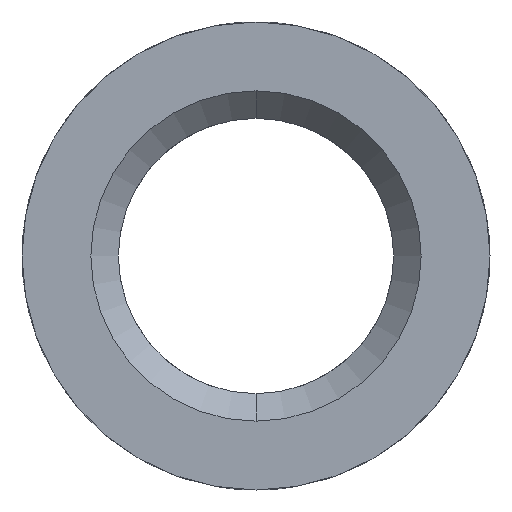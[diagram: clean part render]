
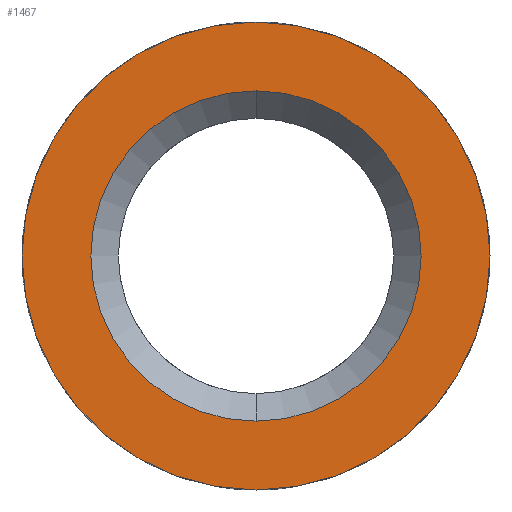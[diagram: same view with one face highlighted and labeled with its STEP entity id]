
A CAD part, left-side view. The second image highlights one B-rep face of the part: STEP entity #1467.
In plain terms, the highlighted planar face has unit normal (-1, 0, 0).
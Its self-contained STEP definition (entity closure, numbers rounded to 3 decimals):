
#71 = DIRECTION ( 'NONE',  ( 0., 0., 1. ) ) ;
#90 = EDGE_CURVE ( 'NONE', #1417, #294, #1748, .T. ) ;
#257 = CARTESIAN_POINT ( 'NONE',  ( -12.7, 0., 0. ) ) ;
#263 = AXIS2_PLACEMENT_3D ( 'NONE', #2229, #596, #2007 ) ;
#294 = VERTEX_POINT ( 'NONE', #2160 ) ;
#395 = CIRCLE ( 'NONE', #2587, 4.25 ) ;
#596 = DIRECTION ( 'NONE',  ( 1., 0., 0. ) ) ;
#636 = AXIS2_PLACEMENT_3D ( 'NONE', #257, #1765, #1462 ) ;
#832 = AXIS2_PLACEMENT_3D ( 'NONE', #947, #1535, #2147 ) ;
#947 = CARTESIAN_POINT ( 'NONE',  ( -12.7, 0., 0. ) ) ;
#1019 = FACE_BOUND ( 'NONE', #2196, .T. ) ;
#1034 = ORIENTED_EDGE ( 'NONE', *, *, #1393, .F. ) ;
#1114 = DIRECTION ( 'NONE',  ( 1., 0., 0. ) ) ;
#1260 = CARTESIAN_POINT ( 'NONE',  ( -12.7, 2.5, 0. ) ) ;
#1352 = CARTESIAN_POINT ( 'NONE',  ( -12.7, 0., 0. ) ) ;
#1393 = EDGE_CURVE ( 'NONE', #2288, #2182, #2625, .T. ) ;
#1401 = ORIENTED_EDGE ( 'NONE', *, *, #1644, .F. ) ;
#1417 = VERTEX_POINT ( 'NONE', #2194 ) ;
#1462 = DIRECTION ( 'NONE',  ( 0., 0., 1. ) ) ;
#1467 = ADVANCED_FACE ( 'NONE', ( #1019, #1872 ), #1858, .T. ) ;
#1497 = CIRCLE ( 'NONE', #636, 3. ) ;
#1508 = AXIS2_PLACEMENT_3D ( 'NONE', #1260, #2289, #71 ) ;
#1535 = DIRECTION ( 'NONE',  ( 1., 0., 0. ) ) ;
#1588 = ORIENTED_EDGE ( 'NONE', *, *, #2277, .T. ) ;
#1644 = EDGE_CURVE ( 'NONE', #2182, #2288, #395, .T. ) ;
#1748 = CIRCLE ( 'NONE', #832, 3. ) ;
#1765 = DIRECTION ( 'NONE',  ( 1., 0., 0. ) ) ;
#1858 = PLANE ( 'NONE',  #1508 ) ;
#1872 = FACE_OUTER_BOUND ( 'NONE', #2377, .T. ) ;
#1945 = DIRECTION ( 'NONE',  ( 0., 0., -1. ) ) ;
#2007 = DIRECTION ( 'NONE',  ( 0., 0., -1. ) ) ;
#2105 = CARTESIAN_POINT ( 'NONE',  ( -12.7, 0., 4.25 ) ) ;
#2147 = DIRECTION ( 'NONE',  ( 0., 0., 1. ) ) ;
#2160 = CARTESIAN_POINT ( 'NONE',  ( -12.7, 0., 3. ) ) ;
#2182 = VERTEX_POINT ( 'NONE', #2235 ) ;
#2194 = CARTESIAN_POINT ( 'NONE',  ( -12.7, 0., -3. ) ) ;
#2196 = EDGE_LOOP ( 'NONE', ( #1588, #2266 ) ) ;
#2229 = CARTESIAN_POINT ( 'NONE',  ( -12.7, 0., 0. ) ) ;
#2235 = CARTESIAN_POINT ( 'NONE',  ( -12.7, 0., -4.25 ) ) ;
#2266 = ORIENTED_EDGE ( 'NONE', *, *, #90, .T. ) ;
#2277 = EDGE_CURVE ( 'NONE', #294, #1417, #1497, .T. ) ;
#2288 = VERTEX_POINT ( 'NONE', #2105 ) ;
#2289 = DIRECTION ( 'NONE',  ( -1., 0., 0. ) ) ;
#2377 = EDGE_LOOP ( 'NONE', ( #1401, #1034 ) ) ;
#2587 = AXIS2_PLACEMENT_3D ( 'NONE', #1352, #1114, #1945 ) ;
#2625 = CIRCLE ( 'NONE', #263, 4.25 ) ;
